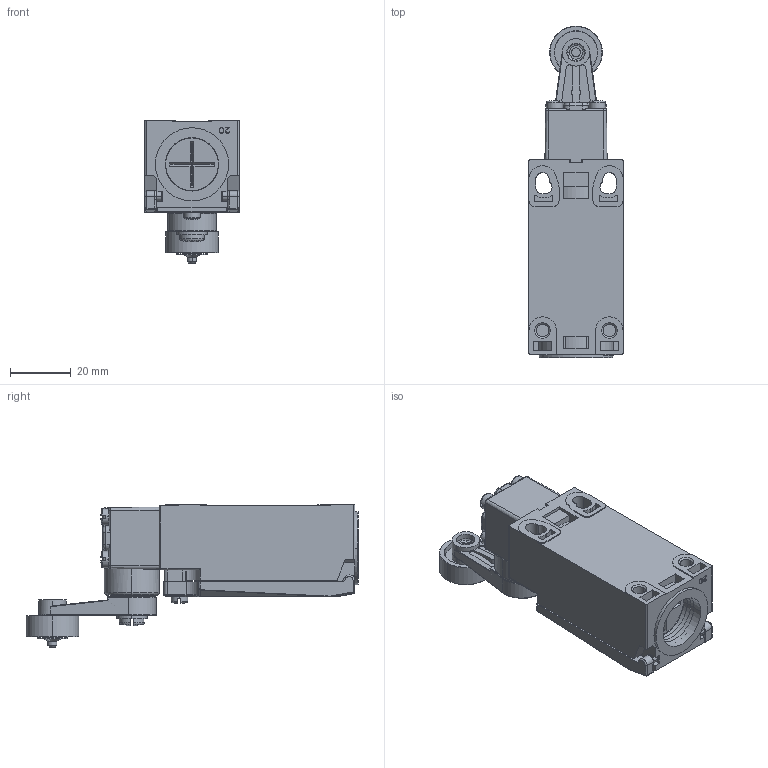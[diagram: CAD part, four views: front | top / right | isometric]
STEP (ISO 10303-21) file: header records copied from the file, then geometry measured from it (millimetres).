
FILE_DESCRIPTION(/* description */ (''),/* implementation_level */ '2;1');
FILE_NAME(/* name */ 'ALS3-P...C1.stp',/* time_stamp */ '2022-04-21T15:15:20+08:00',/* author */ (''),/* organization */ (''),/* preprocessor_version */ 'ST-DEVELOPER v16.7',/* originating_system */ 'SIEMENS PLM Software NX 12.0',/* authorisation */ '');
FILE_SCHEMA (('AUTOMOTIVE_DESIGN { 1 0 10303 214 3 1 1 1 }'));
Products named in the file (13): 4120头部卡片; TZ-8塑料轮; 4120头部摆杆; M5X13螺钉; M3X22螺钉; 4120头部基座; M3X9; 20210810COVER_BODY; 基座; 尾塞; 4120轮子组件; D4N-4120头部组件; ALS3-P...C1_stp
Assembly tree (15 placements, depth 4):
  ALS3-P...C1_stp
    尾塞
    基座
    20210810COVER_BODY
    M3X9
    D4N-4120头部组件
      4120头部基座
      M3X22螺钉  x4
      4120轮子组件
        4120头部摆杆
        TZ-8塑料轮
        4120头部卡片
      M5X13螺钉
Bounding box: 31 x 108.95 x 46.75 mm (x, y, z)
Volume: 30798.4 mm3; surface area: 33026.1 mm2
Topology: 13 solids, 13 shells, 1892 faces, 5176 edges, 3354 vertices
Faces by surface type: plane 945, cylinder 634, cone 139, torus 83, bspline 55, sphere 36
Entity records: 63483 total; most frequent: CARTESIAN_POINT 18088, ORIENTED_EDGE 9790, DIRECTION 9041, EDGE_CURVE 4895, VERTEX_POINT 3192, AXIS2_PLACEMENT_3D 3156, LINE 2729, VECTOR 2729
